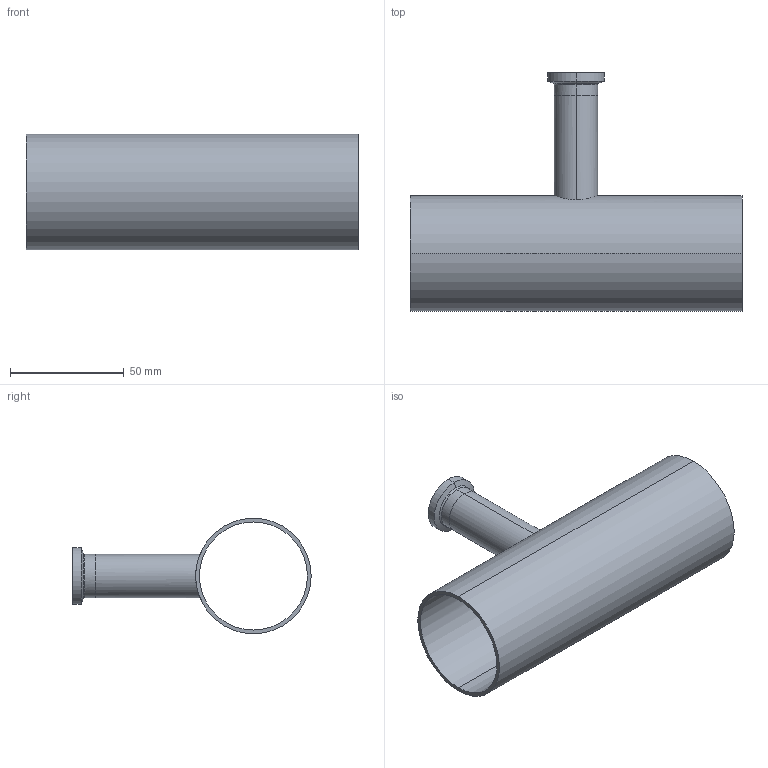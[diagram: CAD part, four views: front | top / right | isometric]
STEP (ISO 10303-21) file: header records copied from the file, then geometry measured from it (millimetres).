
FILE_DESCRIPTION (( 'STEP AP214' ), '1' );
FILE_NAME ('TE7RWWC6L2.0x.75-...STEP', '2016-05-23T08:03:19', ( 'eran' ), ( '' ), 'SwSTEP 2.0', 'SolidWorks 2016', '' );
FILE_SCHEMA (( 'AUTOMOTIVE_DESIGN' ));
Length unit declared in the file: millimetre
Products named in the file (1): TE7RWWC6L2.0x.75-..
Bounding box: 146 x 104.8 x 50.8 mm (x, y, z)
Volume: 42393.8 mm3; surface area: 51968.4 mm2
Topology: 2 solids, 2 shells, 34 faces, 82 edges, 54 vertices
Faces by surface type: cylinder 16, bspline 8, plane 6, cone 4
Entity records: 1343 total; most frequent: CARTESIAN_POINT 487, DIRECTION 182, ORIENTED_EDGE 164, EDGE_CURVE 82, AXIS2_PLACEMENT_3D 81, VERTEX_POINT 54, CIRCLE 54, EDGE_LOOP 42
